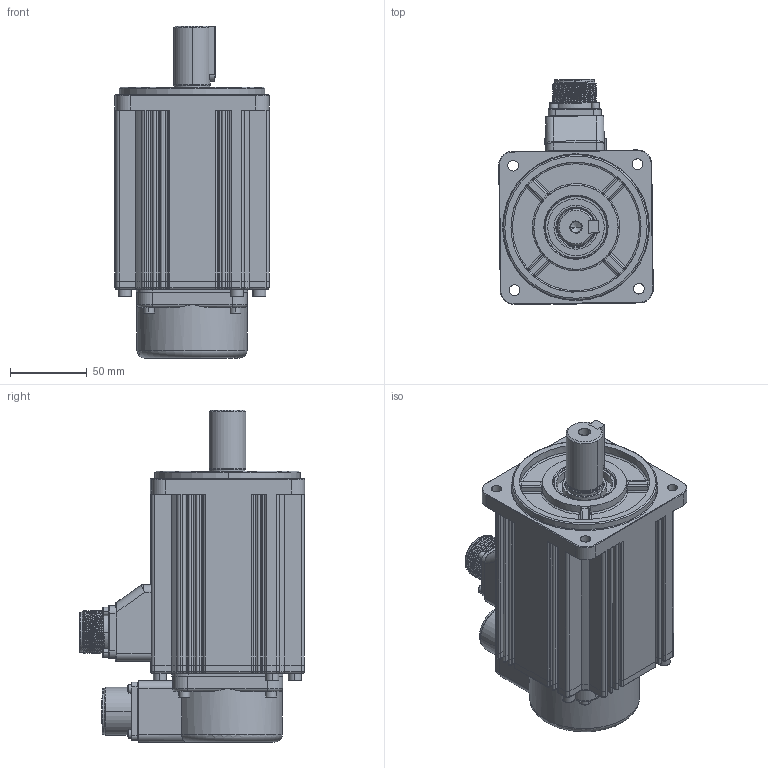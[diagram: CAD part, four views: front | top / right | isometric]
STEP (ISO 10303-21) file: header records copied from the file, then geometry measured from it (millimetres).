
FILE_DESCRIPTION((''),'2;1');
FILE_NAME('IMS20B-10M20C30C-00_ASM','2025-05-20T12:28:35',('admin'),(''),'CREO PARAMETRIC BY PTC INC, 2019080','CREO PARAMETRIC BY PTC INC, 2019080','');
FILE_SCHEMA(('CONFIG_CONTROL_DESIGN'));
Products named in the file (19): 100_JIKE_20C_L64_2_1; 50051-00115_1_1; 18-A6-18FLANGE-CUSTOM-3D_1_1; ISO4762-M3X30-8_8_1_1; 100_DZZJ_20C_ASM_2_ASM_1_ASM; 100-20C_ZHOU_L64_1_1; 100_HDG_1_1; 100_ZZZJ_20C_ASM_1_ASM_1_ASM; 100_FHZ_1_1; CMS3102A20-29PE9-A-3D_1_1; ISO7045-M3X16-4_8_1_1; ISO4762-M4X16-8_8_1_1; 100_FHZ_ASM_1_ASM_1_ASM; 13000_1_1; ISO4762-M5X16-8_8_1_1; IMS20B-10M20C30C_ASM_2_ASM_1_ASM; IMS20B-10M20C30C-00_ASM_1_ASM; C; IMS20B-10M20C30C-00_ASM
Assembly tree (30 placements, depth 5):
  IMS20B-10M20C30C-00_ASM
    IMS20B-10M20C30C-00_ASM_1_ASM
      IMS20B-10M20C30C_ASM_2_ASM_1_ASM
        100_DZZJ_20C_ASM_2_ASM_1_ASM
          100_JIKE_20C_L64_2_1
          50051-00115_1_1
          18-A6-18FLANGE-CUSTOM-3D_1_1
          ISO4762-M3X30-8_8_1_1  x4
        100_ZZZJ_20C_ASM_1_ASM_1_ASM
          100-20C_ZHOU_L64_1_1
          100_HDG_1_1
        100_FHZ_ASM_1_ASM_1_ASM
          100_FHZ_1_1
          CMS3102A20-29PE9-A-3D_1_1
          ISO7045-M3X16-4_8_1_1  x4
          ISO4762-M4X16-8_8_1_1  x4
        13000_1_1
        ISO4762-M5X16-8_8_1_1  x4
    C
Bounding box: 100.95 x 147.22 x 217 mm (x, y, z)
Volume: 1453296.4 mm3; surface area: 197212.6 mm2
Topology: 25 solids, 63 shells, 4224 faces, 11530 edges, 7556 vertices
Faces by surface type: plane 2044, cylinder 907, extrusion 812, torus 207, cone 137, sphere 77, bspline 40
Entity records: 137671 total; most frequent: CARTESIAN_POINT 38312, ORIENTED_EDGE 21566, DIRECTION 18388, EDGE_CURVE 10829, VECTOR 7316, VERTEX_POINT 7166, LINE 6504, AXIS2_PLACEMENT_3D 5536
